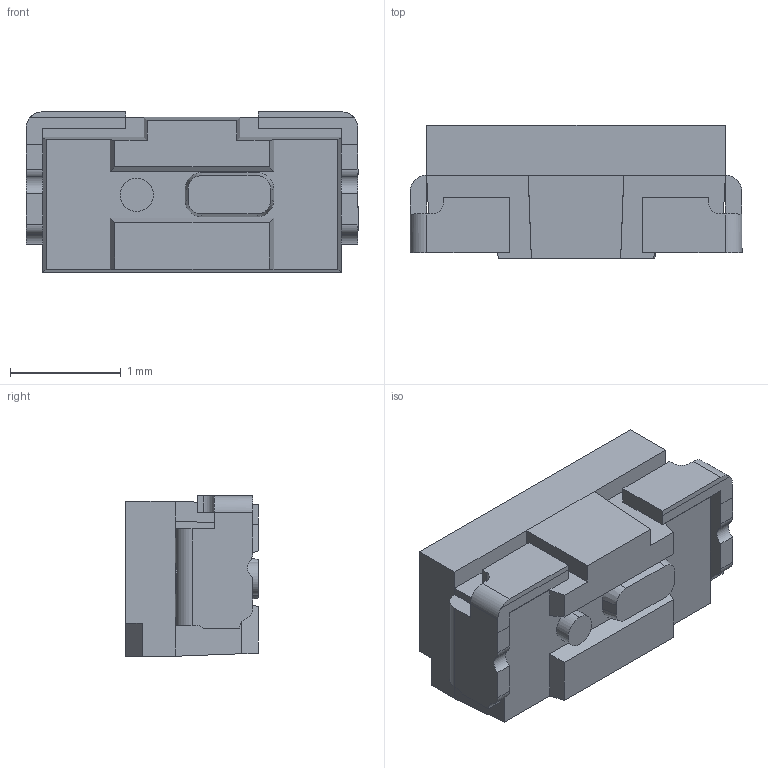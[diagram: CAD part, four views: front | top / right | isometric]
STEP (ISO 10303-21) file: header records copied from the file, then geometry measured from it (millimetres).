
FILE_DESCRIPTION (( 'STEP AP203' ), '1' );
FILE_NAME ('301412-16R-PLCC-PPA LED LF(Side View盡ノ-竲干眏) 20211019(タΑ).STEP', '2022-01-12T06:20:58', ( '' ), ( '' ), 'SwSTEP 2.0', 'SolidWorks 2018', '' );
FILE_SCHEMA (( 'CONFIG_CONTROL_DESIGN' ));
Length unit declared in the file: millimetre
Products named in the file (6): lead frame; 012MR-U-FF0; 301412-16R-PLCC-PPA LED LF(Side View盡ノ-竲干眏) 20211019(タΑ); wire; shell; glue
Assembly tree (5 placements, depth 2):
  301412-16R-PLCC-PPA LED LF(Side View盡ノ-竲干眏) 20211019(タΑ)
    lead frame
    shell
    012MR-U-FF0
    wire
    glue
Bounding box: 3 x 1.2 x 1.45 mm (x, y, z)
Volume: 4.2 mm3; surface area: 38.3 mm2
Topology: 6 solids, 6 shells, 288 faces, 828 edges, 536 vertices
Faces by surface type: plane 174, cylinder 98, sphere 8, cone 4, torus 4
Entity records: 10222 total; most frequent: CARTESIAN_POINT 1951, ORIENTED_EDGE 1624, DIRECTION 1619, EDGE_CURVE 812, LINE 563, VECTOR 563, AXIS2_PLACEMENT_3D 528, VERTEX_POINT 528
